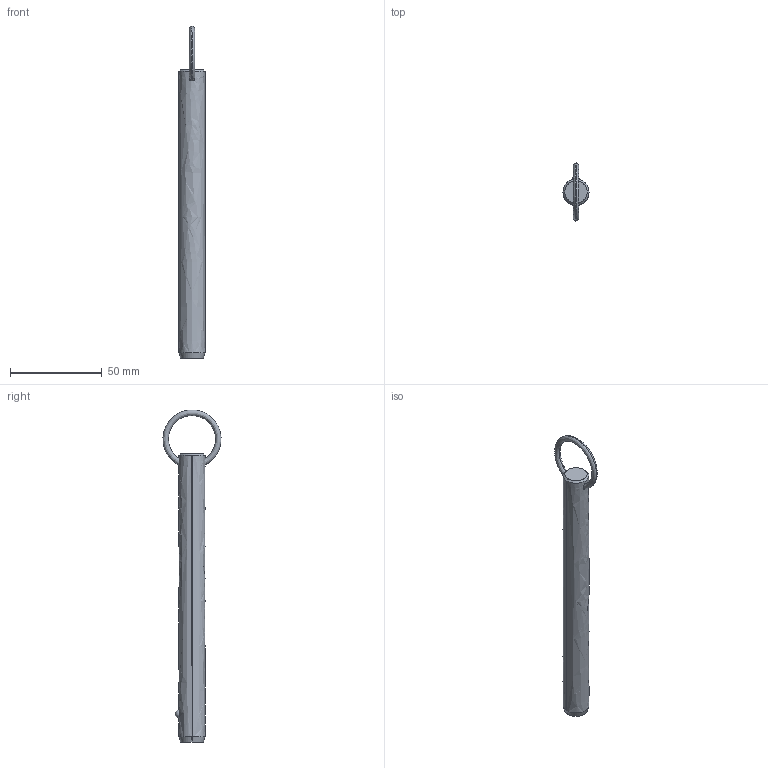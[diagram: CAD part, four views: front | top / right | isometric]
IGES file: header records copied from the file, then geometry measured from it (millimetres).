
Start section: SolidWorks IGES file using analytic representation for surfaces
Global section: file name: C:\Users\liam_\OneDrive\Documents\WORK\Work for WixRoyd\Job Files\J-00019 - Matt Davis CAD Checking\04. CAD Drawings\automotion20190605\P1250.2_v2\P1250.2_v2_20190729_IGES\P1250.056-520.igs; native system: SolidWorks 2017; preprocessor: SolidWorks 2017; author: liam_; date: 190729.232503; units: millimetre
Bounding box: 14.2 x 31.67 x 181.19 mm (x, y, z)
Surface area: 7987.6 mm2 (no closed solid volume)
Topology: 0 solids, 0 shells, 12 faces, 285 edges, 283 vertices
Faces by surface type: revolution 8, bspline 4
